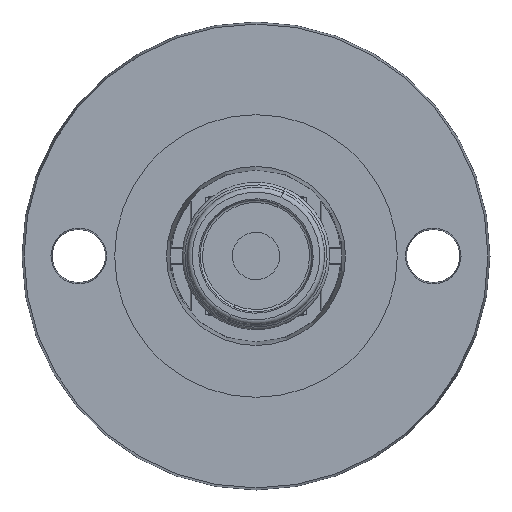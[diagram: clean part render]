
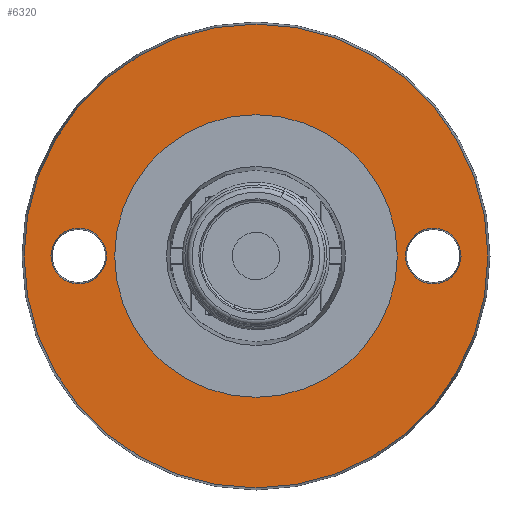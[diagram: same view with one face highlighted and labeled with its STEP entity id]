
A CAD part, front view. The second image highlights one B-rep face of the part: STEP entity #6320.
In plain terms, the highlighted planar face has unit normal (0, -1, 0).
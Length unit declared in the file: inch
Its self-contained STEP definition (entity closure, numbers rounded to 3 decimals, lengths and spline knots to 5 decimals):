
#404 = EDGE_LOOP ( 'NONE', ( #10533, #10302 ) ) ;
#445 = CARTESIAN_POINT ( 'NONE',  ( 0.375, 0.02, 0.05868 ) ) ;
#695 = CIRCLE ( 'NONE', #11509, 0.25818 ) ;
#756 = VERTEX_POINT ( 'NONE', #10531 ) ;
#922 = CIRCLE ( 'NONE', #25578, 0.05868 ) ;
#1652 = CARTESIAN_POINT ( 'NONE',  ( 0.375, 0.02, 0. ) ) ;
#1708 = CIRCLE ( 'NONE', #12425, 0.49063 ) ;
#1897 = DIRECTION ( 'NONE',  ( 0., 0., -1. ) ) ;
#2602 = EDGE_CURVE ( 'NONE', #14573, #8491, #695, .T. ) ;
#2808 = CIRCLE ( 'NONE', #26004, 0.25818 ) ;
#2854 = CARTESIAN_POINT ( 'NONE',  ( -0.375, 0.02, 0. ) ) ;
#3534 = CARTESIAN_POINT ( 'NONE',  ( -0.375, 0.02, -0.05868 ) ) ;
#3657 = DIRECTION ( 'NONE',  ( 0., -1., 0. ) ) ;
#3659 = CIRCLE ( 'NONE', #14240, 0.05868 ) ;
#3845 = DIRECTION ( 'NONE',  ( 0., 0., -1. ) ) ;
#4136 = CARTESIAN_POINT ( 'NONE',  ( 0., 0.02, 0.49063 ) ) ;
#4351 = CARTESIAN_POINT ( 'NONE',  ( -0.375, 0.02, 0. ) ) ;
#4495 = DIRECTION ( 'NONE',  ( 0., -1., 0. ) ) ;
#4522 = VERTEX_POINT ( 'NONE', #445 ) ;
#5031 = DIRECTION ( 'NONE',  ( 0., 0., -1. ) ) ;
#5058 = FACE_BOUND ( 'NONE', #11177, .T. ) ;
#6000 = CARTESIAN_POINT ( 'NONE',  ( 0., 0.02, -0.25818 ) ) ;
#6303 = ORIENTED_EDGE ( 'NONE', *, *, #2602, .F. ) ;
#6320 = ADVANCED_FACE ( 'NONE', ( #15951, #21797, #10180, #5058 ), #21874, .T. ) ;
#6559 = DIRECTION ( 'NONE',  ( 0., 0., -1. ) ) ;
#7847 = CARTESIAN_POINT ( 'NONE',  ( 0., 0.02, 0. ) ) ;
#7944 = VERTEX_POINT ( 'NONE', #25981 ) ;
#8385 = AXIS2_PLACEMENT_3D ( 'NONE', #17571, #4495, #19789 ) ;
#8424 = VERTEX_POINT ( 'NONE', #3534 ) ;
#8491 = VERTEX_POINT ( 'NONE', #6000 ) ;
#8508 = EDGE_CURVE ( 'NONE', #10509, #7944, #1708, .T. ) ;
#8721 = CARTESIAN_POINT ( 'NONE',  ( 0., 0.02, 0. ) ) ;
#8931 = VERTEX_POINT ( 'NONE', #18661 ) ;
#9412 = ORIENTED_EDGE ( 'NONE', *, *, #18844, .F. ) ;
#9570 = DIRECTION ( 'NONE',  ( 0., -1., 0. ) ) ;
#10022 = DIRECTION ( 'NONE',  ( 0., 0., -1. ) ) ;
#10180 = FACE_BOUND ( 'NONE', #17341, .T. ) ;
#10302 = ORIENTED_EDGE ( 'NONE', *, *, #8508, .T. ) ;
#10509 = VERTEX_POINT ( 'NONE', #4136 ) ;
#10531 = CARTESIAN_POINT ( 'NONE',  ( 0.375, 0.02, -0.05868 ) ) ;
#10533 = ORIENTED_EDGE ( 'NONE', *, *, #19576, .T. ) ;
#10875 = DIRECTION ( 'NONE',  ( 0., 0., -1. ) ) ;
#11177 = EDGE_LOOP ( 'NONE', ( #26126, #13615 ) ) ;
#11509 = AXIS2_PLACEMENT_3D ( 'NONE', #8721, #23955, #10875 ) ;
#12065 = ORIENTED_EDGE ( 'NONE', *, *, #17276, .F. ) ;
#12425 = AXIS2_PLACEMENT_3D ( 'NONE', #28071, #14948, #1897 ) ;
#12669 = EDGE_CURVE ( 'NONE', #8931, #8424, #3659, .T. ) ;
#13081 = AXIS2_PLACEMENT_3D ( 'NONE', #2854, #18097, #5031 ) ;
#13506 = CIRCLE ( 'NONE', #13081, 0.05868 ) ;
#13615 = ORIENTED_EDGE ( 'NONE', *, *, #12669, .F. ) ;
#14240 = AXIS2_PLACEMENT_3D ( 'NONE', #4351, #19639, #6559 ) ;
#14573 = VERTEX_POINT ( 'NONE', #14808 ) ;
#14808 = CARTESIAN_POINT ( 'NONE',  ( 0., 0.02, 0.25818 ) ) ;
#14948 = DIRECTION ( 'NONE',  ( 0., -1., 0. ) ) ;
#15951 = FACE_BOUND ( 'NONE', #20084, .T. ) ;
#16709 = CARTESIAN_POINT ( 'NONE',  ( 0.375, 0.02, 0. ) ) ;
#16785 = AXIS2_PLACEMENT_3D ( 'NONE', #16709, #3657, #18928 ) ;
#16892 = DIRECTION ( 'NONE',  ( 0., -1., 0. ) ) ;
#17276 = EDGE_CURVE ( 'NONE', #4522, #756, #26866, .T. ) ;
#17325 = EDGE_CURVE ( 'NONE', #756, #4522, #922, .T. ) ;
#17341 = EDGE_LOOP ( 'NONE', ( #9412, #6303 ) ) ;
#17571 = CARTESIAN_POINT ( 'NONE',  ( 0., 0.02, 0. ) ) ;
#18034 = CIRCLE ( 'NONE', #20355, 0.49063 ) ;
#18097 = DIRECTION ( 'NONE',  ( 0., -1., 0. ) ) ;
#18661 = CARTESIAN_POINT ( 'NONE',  ( -0.375, 0.02, 0.05868 ) ) ;
#18844 = EDGE_CURVE ( 'NONE', #8491, #14573, #2808, .T. ) ;
#18928 = DIRECTION ( 'NONE',  ( 0., 0., -1. ) ) ;
#19576 = EDGE_CURVE ( 'NONE', #7944, #10509, #18034, .T. ) ;
#19639 = DIRECTION ( 'NONE',  ( 0., -1., 0. ) ) ;
#19789 = DIRECTION ( 'NONE',  ( 0., 0., -1. ) ) ;
#20084 = EDGE_LOOP ( 'NONE', ( #26564, #12065 ) ) ;
#20355 = AXIS2_PLACEMENT_3D ( 'NONE', #7847, #23086, #10022 ) ;
#21033 = EDGE_CURVE ( 'NONE', #8424, #8931, #13506, .T. ) ;
#21797 = FACE_OUTER_BOUND ( 'NONE', #404, .T. ) ;
#21874 = PLANE ( 'NONE',  #8385 ) ;
#22643 = CARTESIAN_POINT ( 'NONE',  ( 0., 0.02, 0. ) ) ;
#23086 = DIRECTION ( 'NONE',  ( 0., -1., 0. ) ) ;
#23955 = DIRECTION ( 'NONE',  ( 0., -1., 0. ) ) ;
#24845 = DIRECTION ( 'NONE',  ( 0., 0., -1. ) ) ;
#25578 = AXIS2_PLACEMENT_3D ( 'NONE', #1652, #16892, #3845 ) ;
#25981 = CARTESIAN_POINT ( 'NONE',  ( 0., 0.02, -0.49063 ) ) ;
#26004 = AXIS2_PLACEMENT_3D ( 'NONE', #22643, #9570, #24845 ) ;
#26126 = ORIENTED_EDGE ( 'NONE', *, *, #21033, .F. ) ;
#26564 = ORIENTED_EDGE ( 'NONE', *, *, #17325, .F. ) ;
#26866 = CIRCLE ( 'NONE', #16785, 0.05868 ) ;
#28071 = CARTESIAN_POINT ( 'NONE',  ( 0., 0.02, 0. ) ) ;
